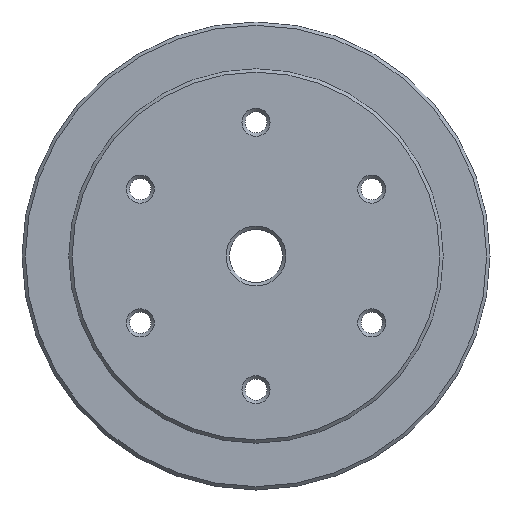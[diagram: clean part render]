
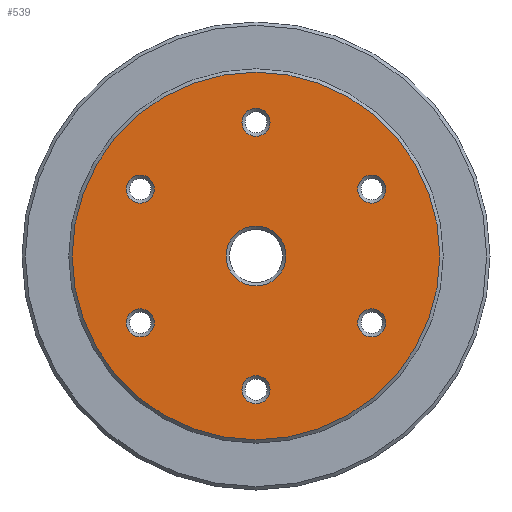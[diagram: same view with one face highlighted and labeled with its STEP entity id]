
A CAD part, left-side view. The second image highlights one B-rep face of the part: STEP entity #539.
In plain terms, the highlighted planar face has unit normal (-1, 0, 0).
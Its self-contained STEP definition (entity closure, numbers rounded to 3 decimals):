
#26=FACE_BOUND('',#81,.T.);
#27=FACE_BOUND('',#82,.T.);
#28=FACE_BOUND('',#83,.T.);
#29=FACE_BOUND('',#84,.T.);
#30=FACE_BOUND('',#85,.T.);
#31=FACE_BOUND('',#86,.T.);
#32=FACE_BOUND('',#87,.T.);
#41=PLANE('',#600);
#47=FACE_OUTER_BOUND('',#80,.T.);
#80=EDGE_LOOP('',(#374));
#81=EDGE_LOOP('',(#375));
#82=EDGE_LOOP('',(#376));
#83=EDGE_LOOP('',(#377));
#84=EDGE_LOOP('',(#378));
#85=EDGE_LOOP('',(#379));
#86=EDGE_LOOP('',(#380));
#87=EDGE_LOOP('',(#381));
#183=CIRCLE('',#599,27.5);
#184=CIRCLE('',#601,2.1);
#185=CIRCLE('',#602,2.1);
#186=CIRCLE('',#603,2.1);
#187=CIRCLE('',#604,4.475);
#188=CIRCLE('',#605,2.1);
#189=CIRCLE('',#606,2.1);
#190=CIRCLE('',#607,2.1);
#234=VERTEX_POINT('',#886);
#235=VERTEX_POINT('',#890);
#236=VERTEX_POINT('',#892);
#237=VERTEX_POINT('',#894);
#238=VERTEX_POINT('',#896);
#239=VERTEX_POINT('',#898);
#240=VERTEX_POINT('',#900);
#241=VERTEX_POINT('',#902);
#287=EDGE_CURVE('',#234,#234,#183,.T.);
#288=EDGE_CURVE('',#235,#235,#184,.T.);
#289=EDGE_CURVE('',#236,#236,#185,.T.);
#290=EDGE_CURVE('',#237,#237,#186,.T.);
#291=EDGE_CURVE('',#238,#238,#187,.T.);
#292=EDGE_CURVE('',#239,#239,#188,.T.);
#293=EDGE_CURVE('',#240,#240,#189,.T.);
#294=EDGE_CURVE('',#241,#241,#190,.T.);
#374=ORIENTED_EDGE('',*,*,#287,.F.);
#375=ORIENTED_EDGE('',*,*,#288,.F.);
#376=ORIENTED_EDGE('',*,*,#289,.F.);
#377=ORIENTED_EDGE('',*,*,#290,.F.);
#378=ORIENTED_EDGE('',*,*,#291,.F.);
#379=ORIENTED_EDGE('',*,*,#292,.F.);
#380=ORIENTED_EDGE('',*,*,#293,.F.);
#381=ORIENTED_EDGE('',*,*,#294,.F.);
#539=ADVANCED_FACE('',(#47,#26,#27,#28,#29,#30,#31,#32),#41,.T.);
#599=AXIS2_PLACEMENT_3D('',#888,#696,#697);
#600=AXIS2_PLACEMENT_3D('',#889,#698,#699);
#601=AXIS2_PLACEMENT_3D('',#891,#700,#701);
#602=AXIS2_PLACEMENT_3D('',#893,#702,#703);
#603=AXIS2_PLACEMENT_3D('',#895,#704,#705);
#604=AXIS2_PLACEMENT_3D('',#897,#706,#707);
#605=AXIS2_PLACEMENT_3D('',#899,#708,#709);
#606=AXIS2_PLACEMENT_3D('',#901,#710,#711);
#607=AXIS2_PLACEMENT_3D('',#903,#712,#713);
#696=DIRECTION('center_axis',(1.,0.,0.));
#697=DIRECTION('ref_axis',(0.,-1.,0.));
#698=DIRECTION('center_axis',(-1.,0.,0.));
#699=DIRECTION('ref_axis',(0.,0.,1.));
#700=DIRECTION('center_axis',(-1.,0.,0.));
#701=DIRECTION('ref_axis',(0.,0.,-1.));
#702=DIRECTION('center_axis',(-1.,0.,0.));
#703=DIRECTION('ref_axis',(0.,0.,1.));
#704=DIRECTION('center_axis',(-1.,0.,0.));
#705=DIRECTION('ref_axis',(0.,-0.866,0.5));
#706=DIRECTION('center_axis',(-1.,0.,0.));
#707=DIRECTION('ref_axis',(0.,-1.,0.));
#708=DIRECTION('center_axis',(-1.,0.,0.));
#709=DIRECTION('ref_axis',(0.,0.866,-0.5));
#710=DIRECTION('center_axis',(-1.,0.,0.));
#711=DIRECTION('ref_axis',(0.,-0.866,-0.5));
#712=DIRECTION('center_axis',(-1.,0.,0.));
#713=DIRECTION('ref_axis',(0.,0.866,0.5));
#886=CARTESIAN_POINT('',(-6.5,27.5,0.));
#888=CARTESIAN_POINT('Origin',(-6.5,0.,0.));
#889=CARTESIAN_POINT('Origin',(-6.5,28.,0.));
#890=CARTESIAN_POINT('',(-6.5,0.,22.1));
#891=CARTESIAN_POINT('Origin',(-6.5,0.,20.));
#892=CARTESIAN_POINT('',(-6.5,0.,-22.1));
#893=CARTESIAN_POINT('Origin',(-6.5,0.,-20.));
#894=CARTESIAN_POINT('',(-6.5,19.139,-11.05));
#895=CARTESIAN_POINT('Origin',(-6.5,17.321,-10.));
#896=CARTESIAN_POINT('',(-6.5,4.475,0.));
#897=CARTESIAN_POINT('Origin',(-6.5,0.,0.));
#898=CARTESIAN_POINT('',(-6.5,-19.139,11.05));
#899=CARTESIAN_POINT('Origin',(-6.5,-17.321,10.));
#900=CARTESIAN_POINT('',(-6.5,19.139,11.05));
#901=CARTESIAN_POINT('Origin',(-6.5,17.321,10.));
#902=CARTESIAN_POINT('',(-6.5,-19.139,-11.05));
#903=CARTESIAN_POINT('Origin',(-6.5,-17.321,-10.));
